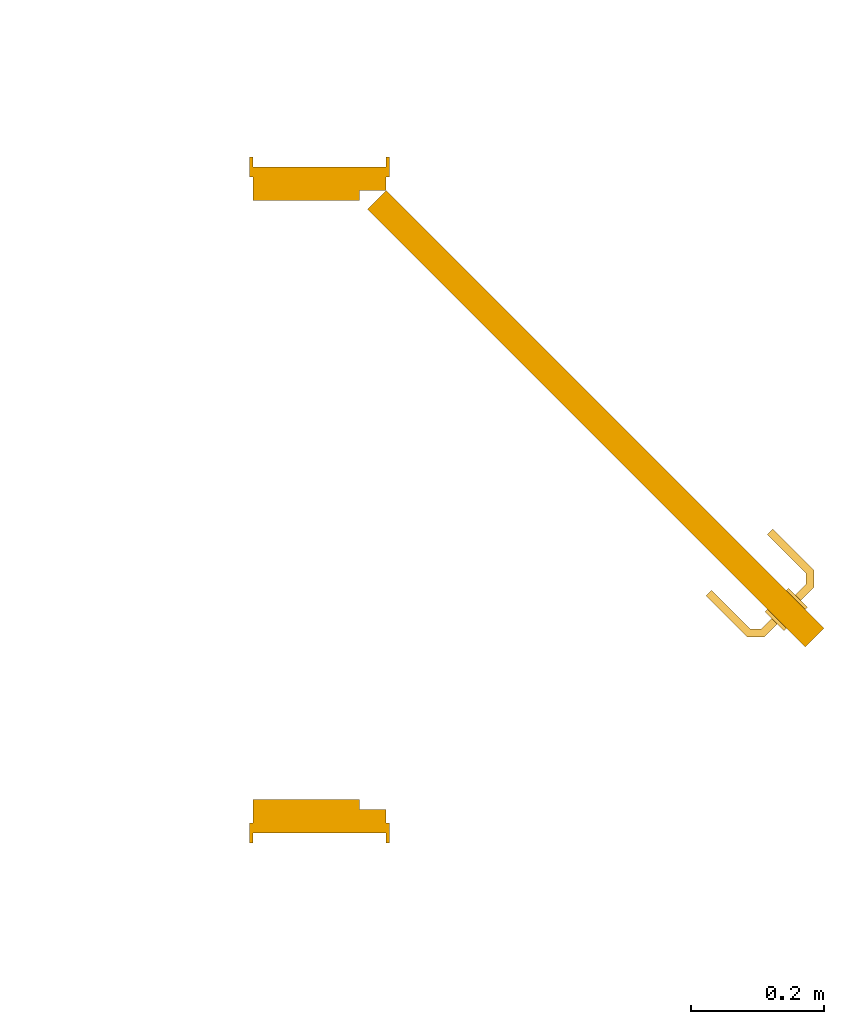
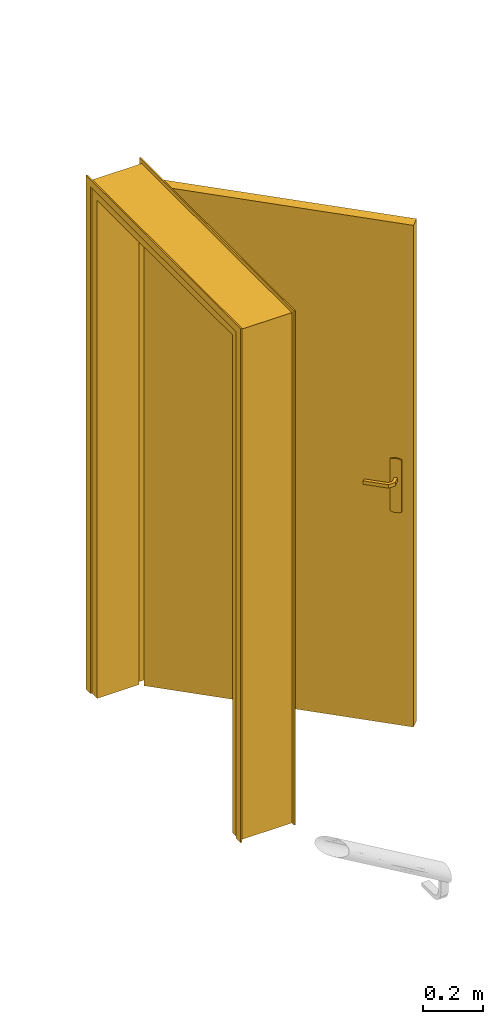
# One storey, part 13 of 18: 1 door.
"""IFC2X3 building model written with IfcOpenShell, lengths in metres."""

from ifc_helpers import new_model, entity, si_unit, converted_unit, derived_unit, direction, frame, origin, place, context, subcontext, project, spatial, faceted_brep, source, transform, mapped, material, material_list, type_object, type_shapes, element, save


model = new_model("IFC2X3")

# Units and contexts
model_context = context("Model", 3, precision=1e-05, world=origin(), true_north=direction((6.12303176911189e-17, 1.0)))
body_context = subcontext(model_context, "Body", "Model", "MODEL_VIEW")
ifc_project = project(units=[si_unit("LENGTHUNIT", "METRE"), si_unit("AREAUNIT", "SQUARE_METRE"), si_unit("VOLUMEUNIT", "CUBIC_METRE"), converted_unit("PLANEANGLEUNIT", "DEGREE", entity("IfcRatioMeasure", 0.0174532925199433), si_unit("PLANEANGLEUNIT", "RADIAN"), dimensions=[0, 0, 0, 0, 0, 0, 0]), si_unit("MASSUNIT", "GRAM", prefix="KILO"), derived_unit("MASSDENSITYUNIT", [(si_unit("MASSUNIT", "GRAM", prefix="KILO"), 1), (si_unit("LENGTHUNIT", "METRE"), -3)]), si_unit("TIMEUNIT", "SECOND"), si_unit("FREQUENCYUNIT", "HERTZ"), si_unit("THERMODYNAMICTEMPERATUREUNIT", "DEGREE_CELSIUS"), derived_unit("THERMALTRANSMITTANCEUNIT", [(si_unit("MASSUNIT", "GRAM", prefix="KILO"), 1), (si_unit("THERMODYNAMICTEMPERATUREUNIT", "KELVIN"), -1), (si_unit("TIMEUNIT", "SECOND"), -3)]), derived_unit("VOLUMETRICFLOWRATEUNIT", [(si_unit("LENGTHUNIT", "METRE"), 3), (si_unit("TIMEUNIT", "SECOND"), -1)]), si_unit("ELECTRICCURRENTUNIT", "AMPERE"), si_unit("ELECTRICVOLTAGEUNIT", "VOLT"), si_unit("POWERUNIT", "WATT"), si_unit("FORCEUNIT", "NEWTON", prefix="KILO"), si_unit("ILLUMINANCEUNIT", "LUX"), si_unit("LUMINOUSFLUXUNIT", "LUMEN"), si_unit("LUMINOUSINTENSITYUNIT", "CANDELA"), derived_unit("USERDEFINED", [(si_unit("MASSUNIT", "GRAM", prefix="KILO"), -1), (si_unit("LENGTHUNIT", "METRE"), -2), (si_unit("TIMEUNIT", "SECOND"), 3), (si_unit("LUMINOUSFLUXUNIT", "LUMEN"), 1)]), derived_unit("LINEARVELOCITYUNIT", [(si_unit("LENGTHUNIT", "METRE"), 1), (si_unit("TIMEUNIT", "SECOND"), -1)]), si_unit("PRESSUREUNIT", "PASCAL"), derived_unit("USERDEFINED", [(si_unit("LENGTHUNIT", "METRE"), -2), (si_unit("MASSUNIT", "GRAM", prefix="KILO"), 1), (si_unit("TIMEUNIT", "SECOND"), -2)])], contexts=[model_context])

# Site, building, storey
site_placement = place(None, origin())
site = spatial("IfcSite", under=ifc_project, at=site_placement, Name="Surface", CompositionType="ELEMENT")
building_placement = place(site_placement, origin())
building = spatial("IfcBuilding", under=site, at=building_placement, Name="ExPREF", CompositionType="ELEMENT")
storey_placement = place(building_placement, frame((0.0, 0.0, -4.62)))
storey = spatial("IfcBuildingStorey", under=building, at=storey_placement, Name="R-1", CompositionType="ELEMENT", Elevation=-4.62)

# Door
ifc_material_1 = material(Name="AA-Blanc satiné")
ifc_material_2 = material(Name="AA-Aluminium")
ifc_material_list_1 = material_list([ifc_material_1, ifc_material_2])
ifc_material_list_2 = material_list([ifc_material_1, ifc_material_2])
door_style = type_object("IfcDoorStyle", Name="PP (0.93m x 2.04m) métal", ConstructionType="NOTDEFINED", OperationType="SINGLE_SWING_LEFT", ParameterTakesPrecedence=False, Sizeable=False, material=ifc_material_list_2)
shared_shape = source(origin(), body_context, "Body", "Brep", [
    faceted_brep([(0.316565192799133, -0.584795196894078, 1.00778044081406), (0.313754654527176, -0.587605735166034, 1.007), (0.313754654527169, -0.587605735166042, 0.992999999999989), (0.316565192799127, -0.584795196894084, 0.99221955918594), (0.319429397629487, -0.581930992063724, 0.992219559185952), (0.32223993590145, -0.579120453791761, 0.993000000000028), (0.322239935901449, -0.579120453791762, 1.007), (0.319429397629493, -0.581930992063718, 1.00778044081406), (0.306340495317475, -0.563221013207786, 0.993000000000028), (0.306340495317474, -0.563221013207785, 1.007), (0.302365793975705, -0.564867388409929, 1.00778044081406), (0.302365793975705, -0.545331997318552, 1.00778044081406), (0.298315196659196, -0.543654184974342, 1.00778044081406), (0.298315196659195, -0.566545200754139, 1.00778044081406), (0.294340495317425, -0.568191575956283, 1.007), (0.294340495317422, -0.56819157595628, 0.992999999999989), (0.298315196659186, -0.566545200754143, 0.99221955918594), (0.298315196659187, -0.543654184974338, 0.99221955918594), (0.302365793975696, -0.545331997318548, 0.992219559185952), (0.302365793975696, -0.564867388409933, 0.992219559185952), (0.306340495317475, -0.546978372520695, 0.993000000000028), (0.306340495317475, -0.546978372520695, 1.007), (0.294340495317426, -0.542007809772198, 1.007), (0.294340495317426, -0.542007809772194, 0.992999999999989), (0.36471958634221, -0.488599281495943, 0.993000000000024), (0.361909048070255, -0.485788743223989, 0.992219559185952), (0.359044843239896, -0.482924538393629, 0.99221955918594), (0.356234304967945, -0.480114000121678, 0.992999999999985), (0.356234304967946, -0.480114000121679, 1.007), (0.359044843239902, -0.482924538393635, 1.00778044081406), (0.361909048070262, -0.485788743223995, 1.00778044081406), (0.364719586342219, -0.488599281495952, 1.007), (0.335530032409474, -0.517788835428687, 0.993000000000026), (0.335530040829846, -0.517788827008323, 1.007), (0.330705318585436, -0.51412826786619, 1.0078786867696), (0.322575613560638, -0.513772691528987, 1.007), (0.322575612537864, -0.513772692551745, 0.992999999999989), (0.330705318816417, -0.514128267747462, 0.992121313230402)], [[[0, 1, 2, 3, 4, 5, 6, 7]], [[6, 5, 8, 9]], [[9, 10, 7, 6]], [[10, 11, 12, 13, 0, 7]], [[13, 14, 1, 0]], [[2, 1, 14, 15]], [[15, 16, 3, 2]], [[16, 17, 18, 19, 4, 3]], [[19, 8, 5, 4]], [[9, 8, 20, 21]], [[21, 11, 10, 9]], [[12, 22, 14, 13]], [[15, 14, 22, 23]], [[23, 17, 16, 15]], [[18, 20, 8, 19]], [[24, 25, 26, 27, 28, 29, 30, 31]], [[21, 20, 32, 24, 31, 33]], [[33, 30, 34]], [[35, 34, 29]], [[21, 33, 11]], [[33, 31, 30]], [[28, 35, 29]], [[22, 12, 35]], [[35, 12, 34]], [[12, 11, 34]], [[11, 33, 34]], [[29, 34, 30]], [[22, 35, 28, 27, 36, 23]], [[36, 26, 37]], [[27, 26, 36]], [[17, 23, 36]], [[37, 32, 18]], [[20, 18, 32]], [[32, 25, 24]], [[26, 25, 37]], [[25, 32, 37]], [[17, 36, 37]], [[17, 37, 18]]]),
    faceted_brep([(0.351920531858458, -0.620150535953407, 1.00778044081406), (0.354784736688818, -0.617286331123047, 1.00778044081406), (0.357595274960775, -0.61447579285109, 1.00699999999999), (0.357595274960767, -0.614475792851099, 0.993000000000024), (0.354784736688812, -0.617286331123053, 0.992219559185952), (0.351920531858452, -0.620150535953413, 0.99221955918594), (0.349109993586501, -0.622961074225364, 0.992999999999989), (0.349109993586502, -0.622961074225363, 1.007), (0.368662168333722, -0.642513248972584, 1.007), (0.370308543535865, -0.638538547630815, 1.00778044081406), (0.393005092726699, -0.638538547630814, 1.00778044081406), (0.391327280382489, -0.634487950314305, 1.00778044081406), (0.371986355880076, -0.634487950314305, 1.00778044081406), (0.373632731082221, -0.630513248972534, 1.007), (0.373632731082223, -0.630513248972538, 0.993000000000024), (0.371986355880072, -0.634487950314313, 0.992219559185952), (0.391327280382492, -0.634487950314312, 0.992219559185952), (0.393005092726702, -0.638538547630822, 0.99221955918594), (0.370308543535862, -0.638538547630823, 0.99221955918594), (0.368662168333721, -0.642513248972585, 0.992999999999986), (0.394651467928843, -0.642513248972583, 1.007), (0.389680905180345, -0.630513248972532, 1.007), (0.38968090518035, -0.630513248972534, 0.993000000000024), (0.394651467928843, -0.642513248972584, 0.992999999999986), (0.456623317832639, -0.5805413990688, 0.992999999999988), (0.453812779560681, -0.577730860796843, 0.99221955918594), (0.450948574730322, -0.574866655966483, 0.992219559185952), (0.448138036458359, -0.57205611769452, 0.993000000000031), (0.44813803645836, -0.572056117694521, 1.007), (0.450948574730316, -0.574866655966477, 1.00778044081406), (0.453812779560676, -0.577730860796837, 1.00778044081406), (0.456623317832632, -0.580541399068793, 1.00699999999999), (0.422886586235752, -0.614278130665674, 1.007), (0.422570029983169, -0.606109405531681, 1.0078786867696), (0.418909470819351, -0.601284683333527, 1.007), (0.418909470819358, -0.601284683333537, 0.993000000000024), (0.422570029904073, -0.606109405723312, 0.992121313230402), (0.422886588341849, -0.614278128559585, 0.992999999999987)], [[[0, 1, 2, 3, 4, 5, 6, 7]], [[8, 9, 0, 7]], [[9, 10, 11, 12, 1, 0]], [[12, 13, 2, 1]], [[3, 2, 13, 14]], [[14, 15, 4, 3]], [[15, 16, 17, 18, 5, 4]], [[18, 19, 6, 5]], [[7, 6, 19, 8]], [[20, 10, 9, 8]], [[11, 21, 13, 12]], [[14, 13, 21, 22]], [[22, 16, 15, 14]], [[17, 23, 19, 18]], [[8, 19, 23, 20]], [[24, 25, 26, 27, 28, 29, 30, 31]], [[32, 30, 33]], [[31, 30, 32]], [[10, 20, 32]], [[33, 34, 11]], [[21, 11, 34]], [[34, 29, 28]], [[30, 29, 33]], [[29, 34, 33]], [[10, 32, 33]], [[10, 33, 11]], [[22, 21, 34, 28, 27, 35]], [[35, 26, 36]], [[37, 36, 25]], [[22, 35, 16]], [[35, 27, 26]], [[24, 37, 25]], [[23, 17, 37]], [[37, 17, 36]], [[17, 16, 36]], [[16, 35, 36]], [[25, 36, 26]], [[20, 23, 37, 24, 31, 32]]]),
    faceted_brep([(0.328853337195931, -0.579578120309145, 0.866003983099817), (0.335674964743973, -0.572756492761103, 0.870000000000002), (0.335674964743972, -0.572756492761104, 1.08), (0.32885333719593, -0.579578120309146, 1.08399601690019), (0.321532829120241, -0.586898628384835, 1.08535898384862), (0.314212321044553, -0.594219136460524, 1.08399601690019), (0.307390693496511, -0.601040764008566, 1.08), (0.307390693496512, -0.601040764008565, 0.870000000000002), (0.314212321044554, -0.594219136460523, 0.866003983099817), (0.321532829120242, -0.586898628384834, 0.86464101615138), (0.325317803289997, -0.576042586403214, 1.08399601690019), (0.332139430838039, -0.569220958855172, 1.08), (0.33213943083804, -0.569220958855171, 0.870000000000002), (0.325317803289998, -0.576042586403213, 0.866003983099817), (0.31799729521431, -0.583363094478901, 0.86464101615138), (0.310676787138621, -0.59068360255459, 0.866003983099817), (0.303855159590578, -0.597505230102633, 0.870000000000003), (0.303855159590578, -0.597505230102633, 1.08), (0.31067678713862, -0.590683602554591, 1.08399601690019), (0.317997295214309, -0.583363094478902, 1.08535898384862)], [[[0, 1, 2, 3, 4, 5, 6, 7, 8, 9]], [[10, 11, 12, 13, 14, 15, 16, 17, 18, 19]], [[11, 10, 3, 2]], [[3, 10, 19, 4]], [[19, 18, 5, 4]], [[18, 17, 6, 5]], [[7, 6, 17, 16]], [[16, 15, 8, 7]], [[8, 15, 14, 9]], [[14, 13, 0, 9]], [[13, 12, 1, 0]], [[2, 1, 12, 11]]]),
    faceted_brep([(0.360673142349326, -0.61139792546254, 0.866003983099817), (0.367494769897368, -0.604576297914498, 0.870000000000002), (0.367494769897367, -0.604576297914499, 1.08), (0.360673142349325, -0.611397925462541, 1.08399601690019), (0.353352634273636, -0.61871843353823, 1.08535898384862), (0.346032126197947, -0.626038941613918, 1.08399601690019), (0.339210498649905, -0.63286056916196, 1.08), (0.339210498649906, -0.632860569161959, 0.870000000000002), (0.346032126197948, -0.626038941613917, 0.866003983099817), (0.353352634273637, -0.618718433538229, 0.86464101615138), (0.357137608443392, -0.607862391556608, 1.08399601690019), (0.363959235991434, -0.601040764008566, 1.08), (0.363959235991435, -0.601040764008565, 0.870000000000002), (0.357137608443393, -0.607862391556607, 0.866003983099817), (0.349817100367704, -0.615182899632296, 0.86464101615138), (0.342496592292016, -0.622503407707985, 0.866003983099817), (0.335674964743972, -0.629325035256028, 0.870000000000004), (0.335674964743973, -0.629325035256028, 1.08), (0.342496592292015, -0.622503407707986, 1.08399601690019), (0.349817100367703, -0.615182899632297, 1.08535898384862)], [[[0, 1, 2, 3, 4, 5, 6, 7, 8, 9]], [[10, 11, 12, 13, 14, 15, 16, 17, 18, 19]], [[16, 15, 8, 7]], [[8, 15, 14, 9]], [[14, 13, 0, 9]], [[13, 12, 1, 0]], [[2, 1, 12, 11]], [[11, 10, 3, 2]], [[3, 10, 19, 4]], [[19, 18, 5, 4]], [[18, 17, 6, 5]], [[7, 6, 17, 16]]]),
    faceted_brep([(0.279106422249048, -0.629325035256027, 2.04), (0.936715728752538, 0.0282842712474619, 2.04), (0.936715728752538, 0.0282842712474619, 0.0), (0.279106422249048, -0.629325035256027, 0.0), (0.30739069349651, -0.657609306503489, 2.04), (0.30739069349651, -0.657609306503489, 0.0), (0.965, 0.0, 0.0), (0.965, 0.0, 2.04)], [[[0, 1, 2, 3]], [[4, 5, 6, 7]], [[1, 0, 4, 7]], [[2, 1, 7, 6]], [[3, 2, 6, 5]], [[0, 3, 5, 4]]]),
    faceted_brep([(0.0, 0.0, 0.0), (0.0, 0.200000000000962, 0.0), (0.0499999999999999, 0.200000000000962, 0.0), (0.0499999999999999, 0.040000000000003, 0.0), (0.0349999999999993, 0.040000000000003, 0.0), (0.0349999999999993, 0.0, 0.0), (0.0, 0.0, 2.07500000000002), (0.0, 0.200000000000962, 2.07500000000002), (1.0, 0.200000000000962, 2.07500000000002), (1.0, 0.200000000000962, 0.0), (0.95, 0.200000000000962, 0.0), (0.95, 0.200000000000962, 2.025), (0.0500000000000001, 0.200000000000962, 2.025), (0.05, 0.040000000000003, 2.025), (0.95, 0.040000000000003, 2.025), (0.95, 0.040000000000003, 0.0), (0.965, 0.040000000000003, 0.0), (0.965, 0.040000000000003, 2.04), (0.0349999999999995, 0.040000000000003, 2.04), (0.0349999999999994, 0.0, 2.04), (0.965, 0.0, 2.04), (0.965, 0.0, 0.0), (1.0, 0.0, 0.0), (1.0, 0.0, 2.07500000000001)], [[[0, 1, 2, 3, 4, 5]], [[1, 0, 6, 7]], [[2, 1, 7, 8, 9, 10, 11, 12]], [[3, 2, 12, 13]], [[4, 3, 13, 14, 15, 16, 17, 18]], [[5, 4, 18, 19]], [[0, 5, 19, 20, 21, 22, 23, 6]], [[8, 23, 22, 9]], [[22, 21, 16, 15, 10, 9]], [[14, 11, 10, 15]], [[20, 17, 16, 21]], [[7, 6, 23, 8]], [[13, 12, 11, 14]], [[19, 18, 17, 20]]]),
    faceted_brep([(0.0149999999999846, 0.200000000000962, 0.0), (-0.0150000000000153, 0.200000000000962, 0.0), (-0.0150000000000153, 0.205000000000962, 0.0), (0.0149999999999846, 0.205000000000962, 0.0), (0.0149999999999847, 0.200000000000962, 2.06000000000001), (0.98499999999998, 0.200000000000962, 2.06000000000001), (0.98499999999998, 0.200000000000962, 0.0), (1.01499999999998, 0.200000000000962, 0.0), (1.01499999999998, 0.200000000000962, 2.09000000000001), (-0.0150000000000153, 0.200000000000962, 2.09000000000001), (-0.0150000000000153, 0.205000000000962, 2.09000000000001), (1.01499999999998, 0.205000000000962, 2.09000000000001), (1.01499999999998, 0.205000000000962, 0.0), (0.98499999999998, 0.205000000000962, 0.0), (0.98499999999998, 0.205000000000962, 2.06000000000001), (0.0149999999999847, 0.205000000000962, 2.06000000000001)], [[[0, 1, 2, 3]], [[1, 0, 4, 5, 6, 7, 8, 9]], [[2, 1, 9, 10]], [[3, 2, 10, 11, 12, 13, 14, 15]], [[0, 3, 15, 4]], [[6, 13, 12, 7]], [[5, 14, 13, 6]], [[11, 8, 7, 12]], [[10, 9, 8, 11]], [[4, 15, 14, 5]]]),
    faceted_brep([(-0.0150000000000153, -0.00500000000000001, 0.0), (0.0149999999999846, -0.00500000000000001, 0.0), (0.0149999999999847, -0.00500000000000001, 2.06000000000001), (0.98499999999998, -0.00500000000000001, 2.06000000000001), (0.98499999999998, -0.00500000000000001, 0.0), (1.01499999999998, -0.00500000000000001, 0.0), (1.01499999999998, -0.00500000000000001, 2.09000000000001), (-0.0150000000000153, -0.00500000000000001, 2.09000000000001), (-0.0150000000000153, 0.0, 0.0), (-0.0150000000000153, 0.0, 2.09000000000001), (0.0149999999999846, 0.0, 0.0), (1.01499999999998, 0.0, 2.09000000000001), (1.01499999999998, 0.0, 0.0), (0.98499999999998, 0.0, 0.0), (0.98499999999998, 0.0, 2.06000000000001), (0.0149999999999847, 0.0, 2.06000000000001)], [[[0, 1, 2, 3, 4, 5, 6, 7]], [[8, 0, 7, 9]], [[10, 8, 9, 11, 12, 13, 14, 15]], [[1, 10, 15, 2]], [[3, 14, 13, 4]], [[11, 6, 5, 12]], [[9, 7, 6, 11]], [[2, 15, 14, 3]], [[4, 13, 12, 5]], [[1, 0, 8, 10]]]),
])
type_shapes(door_style, [shared_shape])
door_placement = place(storey_placement, frame((65.5897436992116, -194.579651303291, 0.0), z_axis=(0.0, 0.0, 1.0), x_axis=(0.0, 1.0, 0.0)))
element("IfcDoor", 1, at=door_placement, inside=storey, type_object=door_style, material=ifc_material_list_1, Name="Int. Simple:PP (0.93m x 2.04m) métal", ObjectType="PP (0.93m x 2.04m) métal", OverallHeight=2.09000000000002, OverallWidth=1.03, context=body_context, shape_type="MappedRepresentation", body=[
    mapped(shared_shape, transform((0.0, 0.0, 0.0), scale=1.0)),
])

save(model, "model.ifc")
